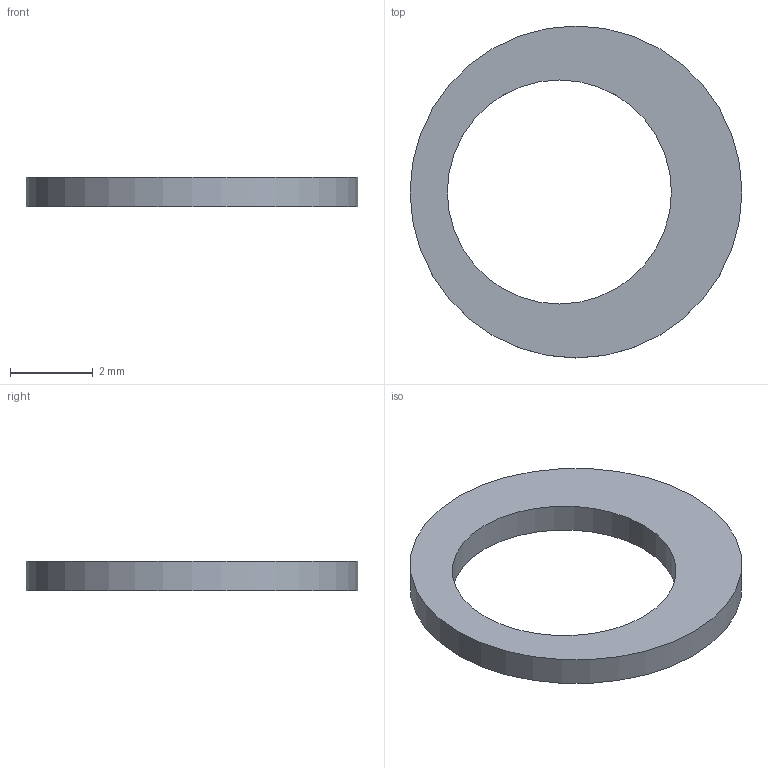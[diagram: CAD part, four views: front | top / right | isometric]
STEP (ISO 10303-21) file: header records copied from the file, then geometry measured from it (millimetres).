
FILE_DESCRIPTION(('Open CASCADE Model'),'2;1');
FILE_NAME('Open CASCADE Shape Model','2026-09-09T11:50:25',('Author'),( 'Open CASCADE'),'Open CASCADE STEP processor 7.7','Open CASCADE 7.7' ,'Unknown');
FILE_SCHEMA(('AUTOMOTIVE_DESIGN { 1 0 10303 214 1 1 1 1 }'));
Length unit declared in the file: millimetre
Products named in the file (1): Open CASCADE STEP translator 7.7 41
Bounding box: 8 x 8 x 0.7 mm (x, y, z)
Volume: 19.2 mm3; surface area: 84.2 mm2
Topology: 1 solids, 1 shells, 4 faces, 6 edges, 4 vertices
Faces by surface type: cylinder 2, plane 2
Full cylindrical faces by diameter (mm): 5.4 x1, 8 x1
Entity records: 186 total; most frequent: DIRECTION 32, CARTESIAN_POINT 27, ORIENTED_EDGE 12, PCURVE 12, DEFINITIONAL_REPRESENTATION 12, LINE 10, VECTOR 10, AXIS2_PLACEMENT_3D 9
